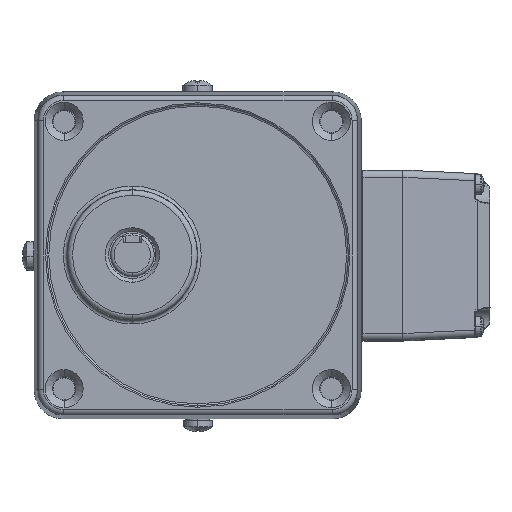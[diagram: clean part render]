
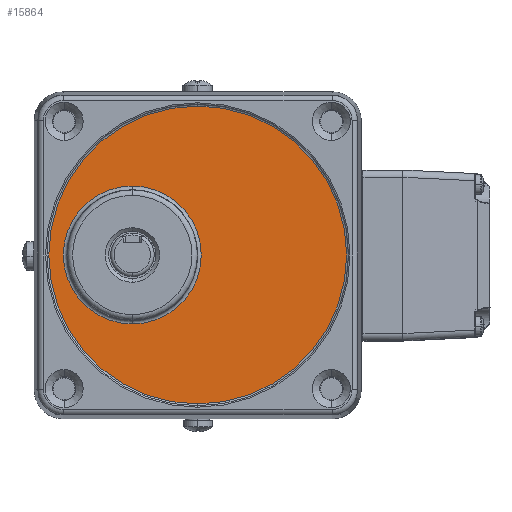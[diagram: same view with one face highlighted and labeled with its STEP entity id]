
A CAD part, top view. The second image highlights one B-rep face of the part: STEP entity #15864.
In plain terms, the highlighted planar face has unit normal (0, 0, 1) as drawn and (1, 0, 0) by its records, which use the part's own axes.
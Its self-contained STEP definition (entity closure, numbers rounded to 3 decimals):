
#245 = CARTESIAN_POINT ( 'NONE',  ( 2697.792, -775.157, 18. ) ) ;
#2585 = EDGE_CURVE ( 'NONE', #40244, #51126, #28917, .T. ) ;
#2817 = CARTESIAN_POINT ( 'NONE',  ( 2697.792, -756.175, 18. ) ) ;
#3950 = CARTESIAN_POINT ( 'NONE',  ( 2697.792, -734.166, 0. ) ) ;
#7562 = FACE_OUTER_BOUND ( 'NONE', #48017, .T. ) ;
#7576 = CIRCLE ( 'NONE', #14999, 40.991 ) ;
#8958 = AXIS2_PLACEMENT_3D ( 'NONE', #27009, #15377, #47009 ) ;
#9937 = AXIS2_PLACEMENT_3D ( 'NONE', #245, #16066, #11672 ) ;
#10326 = DIRECTION ( 'NONE',  ( 0., 1., 0. ) ) ;
#11672 = DIRECTION ( 'NONE',  ( 0., -1., 0. ) ) ;
#11831 = AXIS2_PLACEMENT_3D ( 'NONE', #14820, #50082, #19462 ) ;
#12786 = DIRECTION ( 'NONE',  ( 0., 1., 0. ) ) ;
#14820 = CARTESIAN_POINT ( 'NONE',  ( 2697.792, -775.157, 0. ) ) ;
#14999 = AXIS2_PLACEMENT_3D ( 'NONE', #45074, #49977, #10326 ) ;
#15377 = DIRECTION ( 'NONE',  ( -1., 0., 0. ) ) ;
#15864 = ADVANCED_FACE ( 'NONE', ( #7562, #43061 ), #26193, .T. ) ;
#16066 = DIRECTION ( 'NONE',  ( 1., 0., 0. ) ) ;
#19462 = DIRECTION ( 'NONE',  ( 0., 1., 0. ) ) ;
#20554 = DIRECTION ( 'NONE',  ( 1., 0., 0. ) ) ;
#23430 = EDGE_CURVE ( 'NONE', #33555, #50498, #28790, .T. ) ;
#24372 = CARTESIAN_POINT ( 'NONE',  ( 2697.792, -816.149, 0. ) ) ;
#26193 = PLANE ( 'NONE',  #11831 ) ;
#27009 = CARTESIAN_POINT ( 'NONE',  ( 2697.792, -775.157, 0. ) ) ;
#28422 = EDGE_CURVE ( 'NONE', #50498, #33555, #7576, .T. ) ;
#28568 = CARTESIAN_POINT ( 'NONE',  ( 2697.792, -775.157, 18. ) ) ;
#28790 = CIRCLE ( 'NONE', #8958, 40.991 ) ;
#28917 = CIRCLE ( 'NONE', #9937, 18.983 ) ;
#30177 = CIRCLE ( 'NONE', #33601, 18.983 ) ;
#33555 = VERTEX_POINT ( 'NONE', #24372 ) ;
#33601 = AXIS2_PLACEMENT_3D ( 'NONE', #28568, #20554, #12786 ) ;
#34345 = ORIENTED_EDGE ( 'NONE', *, *, #28422, .F. ) ;
#39716 = ORIENTED_EDGE ( 'NONE', *, *, #42889, .F. ) ;
#40244 = VERTEX_POINT ( 'NONE', #42212 ) ;
#40975 = ORIENTED_EDGE ( 'NONE', *, *, #23430, .F. ) ;
#42212 = CARTESIAN_POINT ( 'NONE',  ( 2697.792, -794.14, 18. ) ) ;
#42859 = ORIENTED_EDGE ( 'NONE', *, *, #2585, .F. ) ;
#42889 = EDGE_CURVE ( 'NONE', #51126, #40244, #30177, .T. ) ;
#43061 = FACE_BOUND ( 'NONE', #48489, .T. ) ;
#45074 = CARTESIAN_POINT ( 'NONE',  ( 2697.792, -775.157, 0. ) ) ;
#47009 = DIRECTION ( 'NONE',  ( 0., -1., 0. ) ) ;
#48017 = EDGE_LOOP ( 'NONE', ( #40975, #34345 ) ) ;
#48489 = EDGE_LOOP ( 'NONE', ( #42859, #39716 ) ) ;
#49977 = DIRECTION ( 'NONE',  ( -1., 0., 0. ) ) ;
#50082 = DIRECTION ( 'NONE',  ( 1., 0., 0. ) ) ;
#50498 = VERTEX_POINT ( 'NONE', #3950 ) ;
#51126 = VERTEX_POINT ( 'NONE', #2817 ) ;
